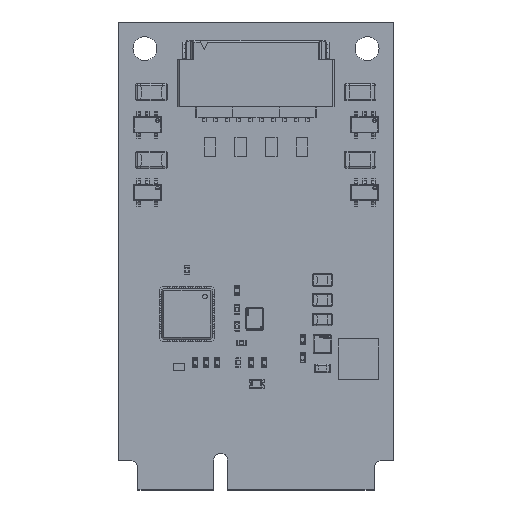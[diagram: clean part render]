
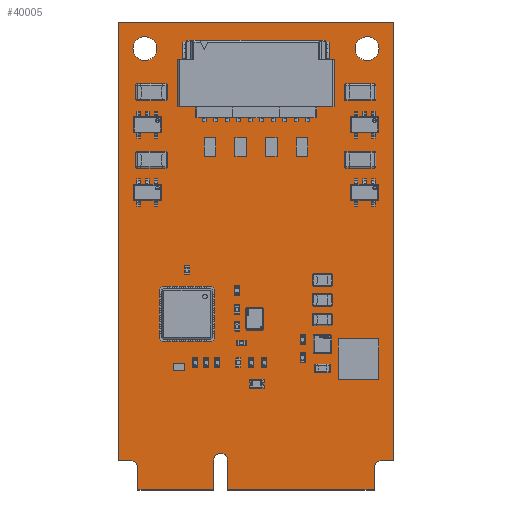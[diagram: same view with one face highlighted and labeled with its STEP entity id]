
A CAD part, top view. The second image highlights one B-rep face of the part: STEP entity #40005.
In plain terms, the highlighted planar face has unit normal (0, 0, 1).
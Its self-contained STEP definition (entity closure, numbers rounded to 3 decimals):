
#39478 = VERTEX_POINT('',#39479);
#39479 = CARTESIAN_POINT('',(1.35,3.2,0.));
#39485 = EDGE_CURVE('',#39478,#39486,#39488,.T.);
#39486 = VERTEX_POINT('',#39487);
#39487 = CARTESIAN_POINT('',(2.15,2.4,0.));
#39488 = CIRCLE('',#39489,0.799);
#39489 = AXIS2_PLACEMENT_3D('',#39490,#39491,#39492);
#39490 = CARTESIAN_POINT('',(1.351,2.401,0.));
#39491 = DIRECTION('',(0.,0.,-1.));
#39492 = DIRECTION('',(-0.001,1.,0.));
#39518 = EDGE_CURVE('',#39486,#39519,#39521,.T.);
#39519 = VERTEX_POINT('',#39520);
#39520 = CARTESIAN_POINT('',(2.15,0.,0.));
#39521 = LINE('',#39522,#39523);
#39522 = CARTESIAN_POINT('',(2.15,2.4,0.));
#39523 = VECTOR('',#39524,1.);
#39524 = DIRECTION('',(0.,-1.,0.));
#39549 = EDGE_CURVE('',#39519,#39550,#39552,.T.);
#39550 = VERTEX_POINT('',#39551);
#39551 = CARTESIAN_POINT('',(10.4,0.,0.));
#39552 = LINE('',#39553,#39554);
#39553 = CARTESIAN_POINT('',(2.15,0.,0.));
#39554 = VECTOR('',#39555,1.);
#39555 = DIRECTION('',(1.,0.,0.));
#39580 = EDGE_CURVE('',#39550,#39581,#39583,.T.);
#39581 = VERTEX_POINT('',#39582);
#39582 = CARTESIAN_POINT('',(10.4,3.25,0.));
#39583 = LINE('',#39584,#39585);
#39584 = CARTESIAN_POINT('',(10.4,0.,0.));
#39585 = VECTOR('',#39586,1.);
#39586 = DIRECTION('',(0.,1.,0.));
#39611 = EDGE_CURVE('',#39581,#39612,#39614,.T.);
#39612 = VERTEX_POINT('',#39613);
#39613 = CARTESIAN_POINT('',(11.9,3.25,0.));
#39614 = CIRCLE('',#39615,0.75);
#39615 = AXIS2_PLACEMENT_3D('',#39616,#39617,#39618);
#39616 = CARTESIAN_POINT('',(11.15,3.25,0.));
#39617 = DIRECTION('',(0.,0.,-1.));
#39618 = DIRECTION('',(-1.,0.,0.));
#39644 = EDGE_CURVE('',#39612,#39645,#39647,.T.);
#39645 = VERTEX_POINT('',#39646);
#39646 = CARTESIAN_POINT('',(11.9,0.,0.));
#39647 = LINE('',#39648,#39649);
#39648 = CARTESIAN_POINT('',(11.9,3.25,0.));
#39649 = VECTOR('',#39650,1.);
#39650 = DIRECTION('',(0.,-1.,0.));
#39675 = EDGE_CURVE('',#39645,#39676,#39678,.T.);
#39676 = VERTEX_POINT('',#39677);
#39677 = CARTESIAN_POINT('',(27.85,0.,0.));
#39678 = LINE('',#39679,#39680);
#39679 = CARTESIAN_POINT('',(11.9,0.,0.));
#39680 = VECTOR('',#39681,1.);
#39681 = DIRECTION('',(1.,0.,0.));
#39706 = EDGE_CURVE('',#39676,#39707,#39709,.T.);
#39707 = VERTEX_POINT('',#39708);
#39708 = CARTESIAN_POINT('',(27.85,2.4,0.));
#39709 = LINE('',#39710,#39711);
#39710 = CARTESIAN_POINT('',(27.85,0.,0.));
#39711 = VECTOR('',#39712,1.);
#39712 = DIRECTION('',(0.,1.,0.));
#39737 = EDGE_CURVE('',#39707,#39738,#39740,.T.);
#39738 = VERTEX_POINT('',#39739);
#39739 = CARTESIAN_POINT('',(28.65,3.2,0.));
#39740 = CIRCLE('',#39741,0.799);
#39741 = AXIS2_PLACEMENT_3D('',#39742,#39743,#39744);
#39742 = CARTESIAN_POINT('',(28.649,2.401,0.));
#39743 = DIRECTION('',(0.,0.,-1.));
#39744 = DIRECTION('',(-1.,-0.001,0.));
#39770 = EDGE_CURVE('',#39738,#39771,#39773,.T.);
#39771 = VERTEX_POINT('',#39772);
#39772 = CARTESIAN_POINT('',(30.,3.2,0.));
#39773 = LINE('',#39774,#39775);
#39774 = CARTESIAN_POINT('',(28.65,3.2,0.));
#39775 = VECTOR('',#39776,1.);
#39776 = DIRECTION('',(1.,0.,0.));
#39801 = EDGE_CURVE('',#39771,#39802,#39804,.T.);
#39802 = VERTEX_POINT('',#39803);
#39803 = CARTESIAN_POINT('',(30.,50.95,0.));
#39804 = LINE('',#39805,#39806);
#39805 = CARTESIAN_POINT('',(30.,3.2,0.));
#39806 = VECTOR('',#39807,1.);
#39807 = DIRECTION('',(0.,1.,0.));
#39832 = EDGE_CURVE('',#39802,#39833,#39835,.T.);
#39833 = VERTEX_POINT('',#39834);
#39834 = CARTESIAN_POINT('',(0.,50.95,0.));
#39835 = LINE('',#39836,#39837);
#39836 = CARTESIAN_POINT('',(30.,50.95,0.));
#39837 = VECTOR('',#39838,1.);
#39838 = DIRECTION('',(-1.,0.,0.));
#39863 = EDGE_CURVE('',#39833,#39864,#39866,.T.);
#39864 = VERTEX_POINT('',#39865);
#39865 = CARTESIAN_POINT('',(0.,3.2,0.));
#39866 = LINE('',#39867,#39868);
#39867 = CARTESIAN_POINT('',(0.,50.95,0.));
#39868 = VECTOR('',#39869,1.);
#39869 = DIRECTION('',(0.,-1.,0.));
#39894 = EDGE_CURVE('',#39864,#39478,#39895,.T.);
#39895 = LINE('',#39896,#39897);
#39896 = CARTESIAN_POINT('',(0.,3.2,0.));
#39897 = VECTOR('',#39898,1.);
#39898 = DIRECTION('',(1.,0.,0.));
#39918 = VERTEX_POINT('',#39919);
#39919 = CARTESIAN_POINT('',(4.2,48.05,0.));
#39925 = EDGE_CURVE('',#39918,#39918,#39926,.T.);
#39926 = CIRCLE('',#39927,1.3);
#39927 = AXIS2_PLACEMENT_3D('',#39928,#39929,#39930);
#39928 = CARTESIAN_POINT('',(2.9,48.05,0.));
#39929 = DIRECTION('',(0.,0.,1.));
#39930 = DIRECTION('',(1.,0.,0.));
#39951 = VERTEX_POINT('',#39952);
#39952 = CARTESIAN_POINT('',(28.4,48.05,0.));
#39958 = EDGE_CURVE('',#39951,#39951,#39959,.T.);
#39959 = CIRCLE('',#39960,1.3);
#39960 = AXIS2_PLACEMENT_3D('',#39961,#39962,#39963);
#39961 = CARTESIAN_POINT('',(27.1,48.05,0.));
#39962 = DIRECTION('',(0.,0.,1.));
#39963 = DIRECTION('',(1.,0.,0.));
#40005 = ADVANCED_FACE('',(#40006,#40022,#40025),#40028,.T.);
#40006 = FACE_BOUND('',#40007,.T.);
#40007 = EDGE_LOOP('',(#40008,#40009,#40010,#40011,#40012,#40013,#40014,
    #40015,#40016,#40017,#40018,#40019,#40020,#40021));
#40008 = ORIENTED_EDGE('',*,*,#39485,.T.);
#40009 = ORIENTED_EDGE('',*,*,#39518,.T.);
#40010 = ORIENTED_EDGE('',*,*,#39549,.T.);
#40011 = ORIENTED_EDGE('',*,*,#39580,.T.);
#40012 = ORIENTED_EDGE('',*,*,#39611,.T.);
#40013 = ORIENTED_EDGE('',*,*,#39644,.T.);
#40014 = ORIENTED_EDGE('',*,*,#39675,.T.);
#40015 = ORIENTED_EDGE('',*,*,#39706,.T.);
#40016 = ORIENTED_EDGE('',*,*,#39737,.T.);
#40017 = ORIENTED_EDGE('',*,*,#39770,.T.);
#40018 = ORIENTED_EDGE('',*,*,#39801,.T.);
#40019 = ORIENTED_EDGE('',*,*,#39832,.T.);
#40020 = ORIENTED_EDGE('',*,*,#39863,.T.);
#40021 = ORIENTED_EDGE('',*,*,#39894,.T.);
#40022 = FACE_BOUND('',#40023,.T.);
#40023 = EDGE_LOOP('',(#40024));
#40024 = ORIENTED_EDGE('',*,*,#39925,.F.);
#40025 = FACE_BOUND('',#40026,.T.);
#40026 = EDGE_LOOP('',(#40027));
#40027 = ORIENTED_EDGE('',*,*,#39958,.F.);
#40028 = PLANE('',#40029);
#40029 = AXIS2_PLACEMENT_3D('',#40030,#40031,#40032);
#40030 = CARTESIAN_POINT('',(1.35,3.2,0.));
#40031 = DIRECTION('',(0.,0.,1.));
#40032 = DIRECTION('',(1.,0.,0.));
